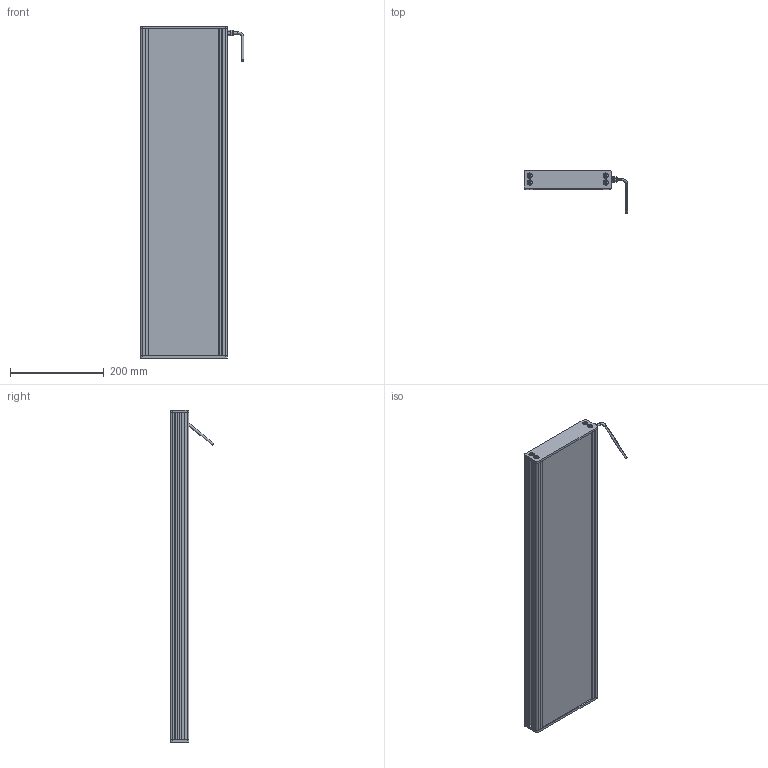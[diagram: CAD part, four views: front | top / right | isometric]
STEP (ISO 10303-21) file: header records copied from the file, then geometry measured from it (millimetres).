
FILE_DESCRIPTION (( 'STEP AP214' ), '1' );
FILE_NAME ('EFFI-BL-150-700T-1M12.STEP', '2021-07-02T08:56:17', ( '' ), ( '' ), 'SwSTEP 2.0', 'SolidWorks 2021', '' );
FILE_SCHEMA (( 'AUTOMOTIVE_DESIGN' ));
Length unit declared in the file: millimetre
Products named in the file (8): bord fin modif_lg 436.5 mm; EFFI-BL-150-700T-1M12; 003776; profile modif_lg 99.5 mm; Pièce2^EFFI-BL-XXX-YYYT + M12; cordon_Avec cable
Assembly tree (14 placements, depth 2):
  EFFI-BL-150-700T-1M12
    bord fin modif_lg 436.5 mm  x2
    profile modif_lg 99.5 mm
    Pièce2^EFFI-BL-XXX-YYYT + M12
    profile modif_lg 99.5 mm
    003776  x7
    003776
    cordon_Avec cable
Bounding box: 221.15 x 92.99 x 710 mm (x, y, z)
Volume: 4545086.6 mm3; surface area: 511267.6 mm2
Topology: 13 solids, 19 shells, 592 faces, 1498 edges, 959 vertices
Faces by surface type: plane 335, bspline 131, cylinder 97, cone 19, torus 10
Entity records: 17147 total; most frequent: CARTESIAN_POINT 5464, ORIENTED_EDGE 2224, DIRECTION 1942, EDGE_CURVE 1116, LINE 808, VECTOR 808, VERTEX_POINT 733, AXIS2_PLACEMENT_3D 567
